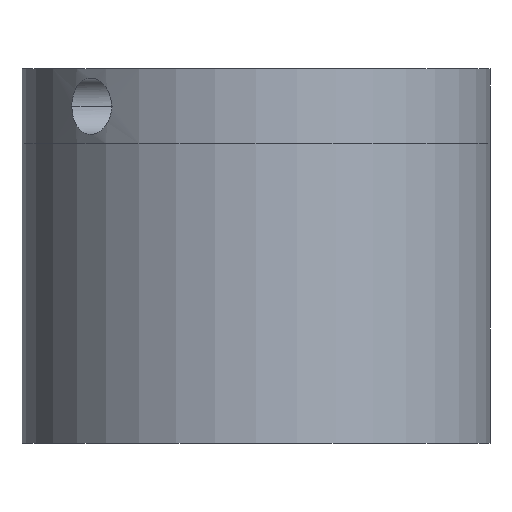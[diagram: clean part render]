
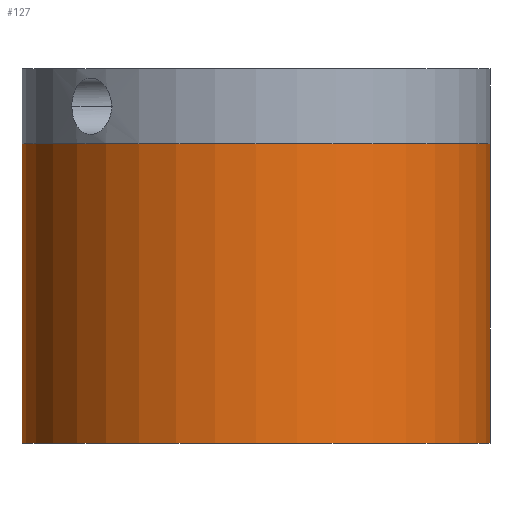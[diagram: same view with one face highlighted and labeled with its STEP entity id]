
A CAD part, front view. The second image highlights one B-rep face of the part: STEP entity #127.
In plain terms, the highlighted cylindrical face has radius 25 mm (diameter 50 mm), a partial arc.
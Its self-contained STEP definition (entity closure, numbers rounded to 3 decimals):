
#127=ADVANCED_FACE('',(#161),#147,.T.);
#147=CYLINDRICAL_SURFACE('',#416,25.);
#161=FACE_OUTER_BOUND('',#173,.T.);
#173=EDGE_LOOP('',(#221,#222,#223,#224));
#201=CIRCLE('',#414,25.);
#202=CIRCLE('',#415,25.);
#221=ORIENTED_EDGE('',*,*,#337,.T.);
#222=ORIENTED_EDGE('',*,*,#338,.F.);
#223=ORIENTED_EDGE('',*,*,#339,.F.);
#224=ORIENTED_EDGE('',*,*,#340,.T.);
#309=VERTEX_POINT('',#554);
#310=VERTEX_POINT('',#555);
#311=VERTEX_POINT('',#557);
#312=VERTEX_POINT('',#559);
#337=EDGE_CURVE('',#309,#310,#381,.T.);
#338=EDGE_CURVE('',#311,#310,#201,.T.);
#339=EDGE_CURVE('',#312,#311,#382,.T.);
#340=EDGE_CURVE('',#312,#309,#202,.T.);
#381=LINE('',#553,#397);
#382=LINE('',#558,#398);
#397=VECTOR('',#456,1.);
#398=VECTOR('',#459,1.);
#414=AXIS2_PLACEMENT_3D('',#556,#457,#458);
#415=AXIS2_PLACEMENT_3D('',#560,#460,#461);
#416=AXIS2_PLACEMENT_3D('',#561,#462,#463);
#456=DIRECTION('',(0.,0.,-1.));
#457=DIRECTION('',(0.,0.,-1.));
#458=DIRECTION('',(0.,1.,0.));
#459=DIRECTION('',(0.,0.,-1.));
#460=DIRECTION('',(0.,0.,-1.));
#461=DIRECTION('',(0.,1.,0.));
#462=DIRECTION('',(0.,0.,-1.));
#463=DIRECTION('',(0.,-1.,0.));
#553=CARTESIAN_POINT('',(-25.,0.,0.));
#554=CARTESIAN_POINT('',(-25.,0.,32.));
#555=CARTESIAN_POINT('',(-25.,0.,0.));
#556=CARTESIAN_POINT('',(0.,0.,0.));
#557=CARTESIAN_POINT('',(25.,0.,0.));
#558=CARTESIAN_POINT('',(25.,0.,0.));
#559=CARTESIAN_POINT('',(25.,0.,32.));
#560=CARTESIAN_POINT('',(0.,0.,32.));
#561=CARTESIAN_POINT('',(0.,0.,32.));
